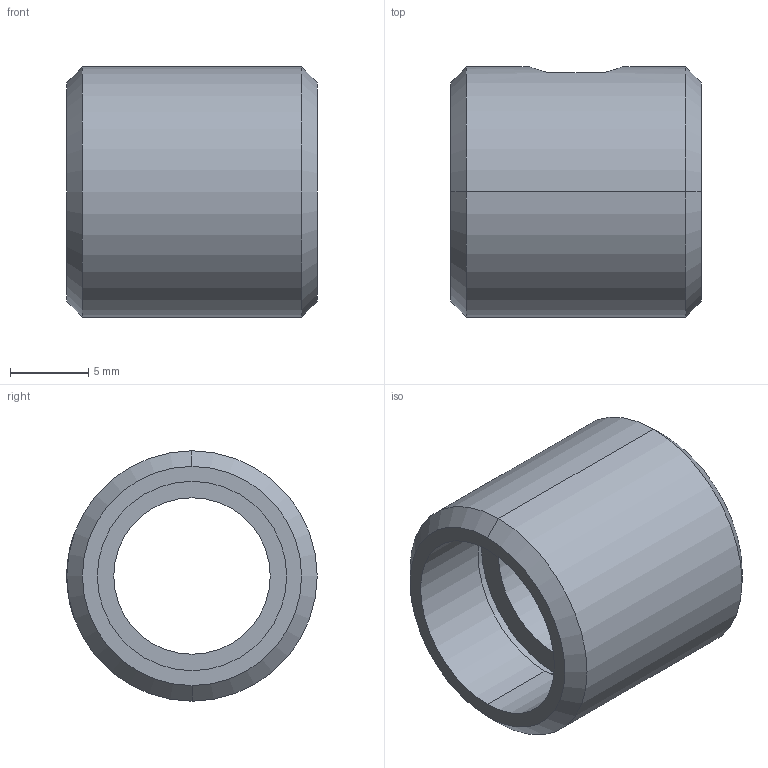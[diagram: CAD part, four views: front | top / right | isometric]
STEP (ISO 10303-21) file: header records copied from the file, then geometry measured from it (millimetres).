
FILE_DESCRIPTION (( 'STEP AP214' ), '1' );
FILE_NAME ('Lens Mnt TubeA Jan10.STEP', '2017-01-10T14:16:41', ( '' ), ( '' ), 'SwSTEP 2.0', 'SolidWorks 2016', '' );
FILE_SCHEMA (( 'AUTOMOTIVE_DESIGN' ));
Length unit declared in the file: millimetre
Products named in the file (1): Lens Mnt TubeA Jan10
Bounding box: 16 x 16 x 16 mm (x, y, z)
Volume: 1425.1 mm3; surface area: 1667.2 mm2
Topology: 1 solids, 1 shells, 27 faces, 56 edges, 36 vertices
Faces by surface type: cylinder 16, plane 7, cone 4
Entity records: 836 total; most frequent: CARTESIAN_POINT 192, DIRECTION 140, ORIENTED_EDGE 112, AXIS2_PLACEMENT_3D 60, EDGE_CURVE 56, EDGE_LOOP 36, VERTEX_POINT 36, CIRCLE 32
